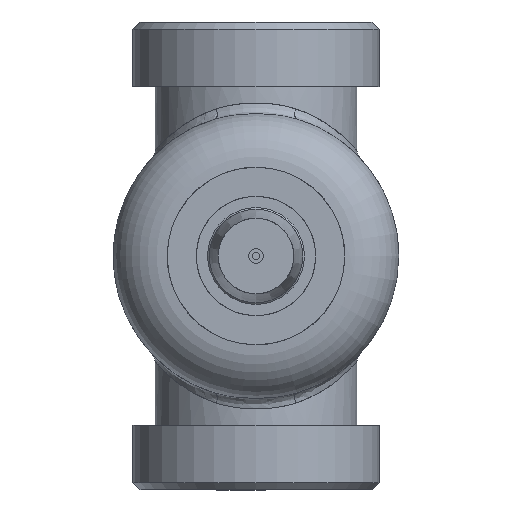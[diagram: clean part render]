
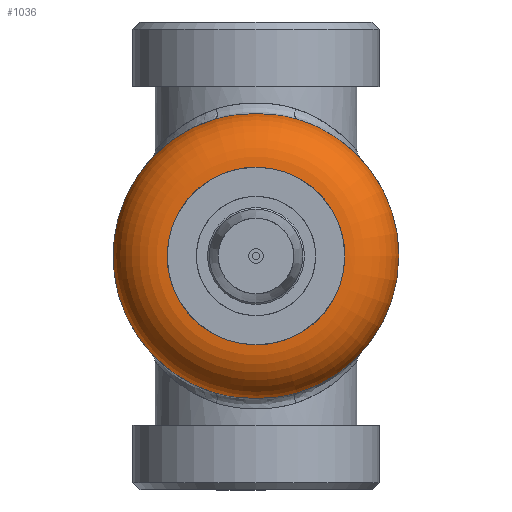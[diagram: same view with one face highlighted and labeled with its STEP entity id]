
A CAD part, front view. The second image highlights one B-rep face of the part: STEP entity #1036.
In plain terms, the highlighted toroidal (fillet/blend) face has major radius 24.666 mm and minor radius 15 mm.
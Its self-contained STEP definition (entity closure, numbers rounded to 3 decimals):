
#23=TOROIDAL_SURFACE('',#2819,24.666,15.);
#377=B_SPLINE_CURVE_WITH_KNOTS('',3,(#6181,#6182,#6183,#6184,#6185,#6186,
#6187,#6188),.UNSPECIFIED.,.F.,.F.,(4,2,2,4),(0.,0.25,0.5,1.),.UNSPECIFIED.);
#378=B_SPLINE_CURVE_WITH_KNOTS('',3,(#6190,#6191,#6192,#6193,#6194,#6195,
#6196,#6197,#6198,#6199),.UNSPECIFIED.,.F.,.F.,(4,2,2,2,4),(0.,0.5,
0.625,0.75,1.),.UNSPECIFIED.);
#379=B_SPLINE_CURVE_WITH_KNOTS('',3,(#6203,#6204,#6205,#6206,#6207,#6208,
#6209,#6210),.UNSPECIFIED.,.F.,.F.,(4,2,2,4),(0.,0.25,0.5,1.),.UNSPECIFIED.);
#380=B_SPLINE_CURVE_WITH_KNOTS('',3,(#6212,#6213,#6214,#6215,#6216,#6217,
#6218,#6219,#6220,#6221),.UNSPECIFIED.,.F.,.F.,(4,2,2,2,4),(0.,0.5,0.625,
0.75,1.),.UNSPECIFIED.);
#1036=ADVANCED_FACE('',(#1121,#1122),#23,.T.);
#1121=FACE_BOUND('',#1206,.T.);
#1122=FACE_BOUND('',#1207,.T.);
#1206=EDGE_LOOP('',(#1579,#1580));
#1207=EDGE_LOOP('',(#1581,#1582,#1583,#1584,#1585,#1586,#1587));
#1579=ORIENTED_EDGE('',*,*,#2521,.T.);
#1580=ORIENTED_EDGE('',*,*,#2522,.T.);
#1581=ORIENTED_EDGE('',*,*,#2523,.T.);
#1582=ORIENTED_EDGE('',*,*,#2524,.T.);
#1583=ORIENTED_EDGE('',*,*,#2525,.T.);
#1584=ORIENTED_EDGE('',*,*,#2526,.T.);
#1585=ORIENTED_EDGE('',*,*,#2527,.T.);
#1586=ORIENTED_EDGE('',*,*,#2528,.T.);
#1587=ORIENTED_EDGE('',*,*,#2529,.T.);
#2050=VERTEX_POINT('',#6173);
#2051=VERTEX_POINT('',#6174);
#2052=VERTEX_POINT('',#6177);
#2053=VERTEX_POINT('',#6178);
#2054=VERTEX_POINT('',#6180);
#2055=VERTEX_POINT('',#6189);
#2056=VERTEX_POINT('',#6200);
#2057=VERTEX_POINT('',#6202);
#2058=VERTEX_POINT('',#6211);
#2521=EDGE_CURVE('',#2050,#2051,#2700,.T.);
#2522=EDGE_CURVE('',#2051,#2050,#2701,.T.);
#2523=EDGE_CURVE('',#2052,#2053,#2702,.T.);
#2524=EDGE_CURVE('',#2053,#2054,#2703,.T.);
#2525=EDGE_CURVE('',#2054,#2055,#377,.T.);
#2526=EDGE_CURVE('',#2055,#2056,#378,.T.);
#2527=EDGE_CURVE('',#2056,#2057,#2704,.T.);
#2528=EDGE_CURVE('',#2057,#2058,#379,.T.);
#2529=EDGE_CURVE('',#2058,#2052,#380,.T.);
#2700=CIRCLE('',#2814,24.666);
#2701=CIRCLE('',#2815,24.666);
#2702=CIRCLE('',#2816,39.666);
#2703=CIRCLE('',#2817,39.666);
#2704=CIRCLE('',#2818,39.666);
#2814=AXIS2_PLACEMENT_3D('',#6172,#3034,#3035);
#2815=AXIS2_PLACEMENT_3D('',#6175,#3036,#3037);
#2816=AXIS2_PLACEMENT_3D('',#6176,#3038,#3039);
#2817=AXIS2_PLACEMENT_3D('',#6179,#3040,#3041);
#2818=AXIS2_PLACEMENT_3D('',#6201,#3042,#3043);
#2819=AXIS2_PLACEMENT_3D('',#6222,#3044,#3045);
#3034=DIRECTION('',(0.,1.,0.));
#3035=DIRECTION('',(0.,0.,1.));
#3036=DIRECTION('',(0.,1.,0.));
#3037=DIRECTION('',(0.,0.,1.));
#3038=DIRECTION('',(0.,-1.,0.));
#3039=DIRECTION('',(0.,0.,-1.));
#3040=DIRECTION('',(0.,-1.,0.));
#3041=DIRECTION('',(0.,0.,-1.));
#3042=DIRECTION('',(0.,-1.,0.));
#3043=DIRECTION('',(0.,0.,-1.));
#3044=DIRECTION('',(0.,-1.,0.));
#3045=DIRECTION('',(0.,0.,-1.));
#6172=CARTESIAN_POINT('',(0.,-43.514,65.));
#6173=CARTESIAN_POINT('',(0.,-43.514,89.666));
#6174=CARTESIAN_POINT('',(24.666,-43.514,65.));
#6175=CARTESIAN_POINT('',(0.,-43.514,65.));
#6176=CARTESIAN_POINT('',(0.,-28.514,65.));
#6177=CARTESIAN_POINT('',(11.309,-28.514,26.98));
#6178=CARTESIAN_POINT('',(39.666,-28.514,65.));
#6179=CARTESIAN_POINT('',(0.,-28.514,65.));
#6180=CARTESIAN_POINT('',(11.309,-28.514,103.02));
#6181=CARTESIAN_POINT('',(11.309,-28.514,103.02));
#6182=CARTESIAN_POINT('',(10.472,-28.834,103.269));
#6183=CARTESIAN_POINT('',(9.662,-29.107,103.474));
#6184=CARTESIAN_POINT('',(7.753,-29.65,103.872));
#6185=CARTESIAN_POINT('',(6.77,-29.878,104.034));
#6186=CARTESIAN_POINT('',(3.904,-30.407,104.405));
#6187=CARTESIAN_POINT('',(1.964,-30.586,104.523));
#6188=CARTESIAN_POINT('',(0.,-30.586,104.523));
#6189=CARTESIAN_POINT('',(0.,-30.586,104.523));
#6190=CARTESIAN_POINT('',(0.,-30.586,104.523));
#6191=CARTESIAN_POINT('',(-1.964,-30.586,104.523));
#6192=CARTESIAN_POINT('',(-3.878,-30.413,104.408));
#6193=CARTESIAN_POINT('',(-6.306,-29.964,104.094));
#6194=CARTESIAN_POINT('',(-6.79,-29.863,104.023));
#6195=CARTESIAN_POINT('',(-7.754,-29.637,103.862));
#6196=CARTESIAN_POINT('',(-8.262,-29.505,103.766));
#6197=CARTESIAN_POINT('',(-9.606,-29.123,103.486));
#6198=CARTESIAN_POINT('',(-10.473,-28.833,103.269));
#6199=CARTESIAN_POINT('',(-11.309,-28.514,103.02));
#6200=CARTESIAN_POINT('',(-11.309,-28.514,103.02));
#6201=CARTESIAN_POINT('',(0.,-28.514,65.));
#6202=CARTESIAN_POINT('',(-11.309,-28.514,26.98));
#6203=CARTESIAN_POINT('',(-11.309,-28.514,26.98));
#6204=CARTESIAN_POINT('',(-10.472,-28.834,26.731));
#6205=CARTESIAN_POINT('',(-9.662,-29.107,26.526));
#6206=CARTESIAN_POINT('',(-7.753,-29.65,26.128));
#6207=CARTESIAN_POINT('',(-6.77,-29.878,25.966));
#6208=CARTESIAN_POINT('',(-3.904,-30.407,25.595));
#6209=CARTESIAN_POINT('',(-1.964,-30.586,25.477));
#6210=CARTESIAN_POINT('',(0.,-30.586,25.477));
#6211=CARTESIAN_POINT('',(0.,-30.586,25.477));
#6212=CARTESIAN_POINT('',(0.,-30.586,25.477));
#6213=CARTESIAN_POINT('',(1.981,-30.586,25.477));
#6214=CARTESIAN_POINT('',(3.926,-30.404,25.598));
#6215=CARTESIAN_POINT('',(6.294,-29.966,25.904));
#6216=CARTESIAN_POINT('',(6.818,-29.857,25.982));
#6217=CARTESIAN_POINT('',(7.782,-29.63,26.143));
#6218=CARTESIAN_POINT('',(8.252,-29.508,26.232));
#6219=CARTESIAN_POINT('',(9.626,-29.117,26.518));
#6220=CARTESIAN_POINT('',(10.494,-28.825,26.737));
#6221=CARTESIAN_POINT('',(11.309,-28.514,26.98));
#6222=CARTESIAN_POINT('',(0.,-28.514,65.));
